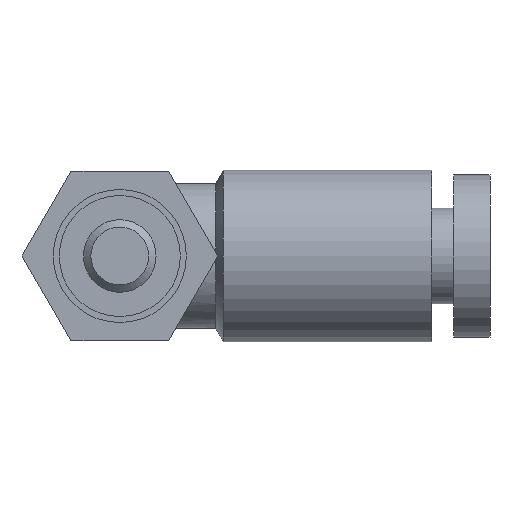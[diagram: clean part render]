
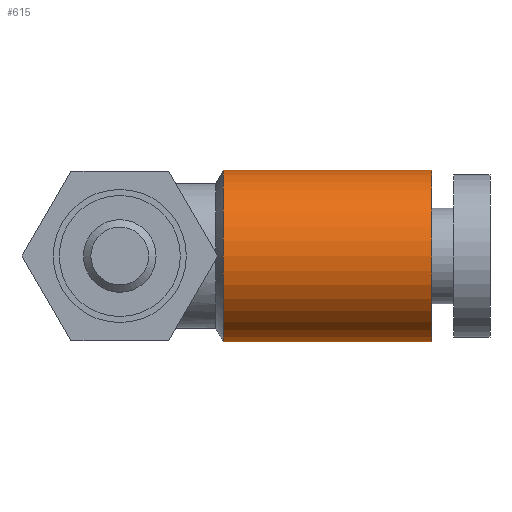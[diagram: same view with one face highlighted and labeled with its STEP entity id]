
A CAD part, front view. The second image highlights one B-rep face of the part: STEP entity #615.
In plain terms, the highlighted cylindrical face has radius 3.55 mm (diameter 7.1 mm), a full revolution.
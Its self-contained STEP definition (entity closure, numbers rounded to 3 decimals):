
#69=CIRCLE('',#656,3.55);
#86=CIRCLE('',#698,3.55);
#210=ORIENTED_EDGE('',*,*,#317,.F.);
#211=ORIENTED_EDGE('',*,*,#272,.T.);
#272=EDGE_CURVE('',#347,#347,#69,.T.);
#317=EDGE_CURVE('',#377,#377,#86,.T.);
#347=VERTEX_POINT('',#973);
#377=VERTEX_POINT('',#1082);
#495=EDGE_LOOP('',(#210));
#496=EDGE_LOOP('',(#211));
#554=FACE_BOUND('',#495,.T.);
#555=FACE_BOUND('',#496,.T.);
#581=CYLINDRICAL_SURFACE('',#697,3.55);
#615=ADVANCED_FACE('',(#554,#555),#581,.T.);
#656=AXIS2_PLACEMENT_3D('',#972,#754,#755);
#697=AXIS2_PLACEMENT_3D('',#1080,#861,#862);
#698=AXIS2_PLACEMENT_3D('',#1081,#863,#864);
#754=DIRECTION('',(1.,0.,0.));
#755=DIRECTION('',(0.,0.,-1.));
#861=DIRECTION('',(1.,0.,0.));
#862=DIRECTION('',(0.,0.,-1.));
#863=DIRECTION('',(1.,0.,0.));
#864=DIRECTION('',(0.,0.,-1.));
#972=CARTESIAN_POINT('',(4.286,11.25,0.));
#973=CARTESIAN_POINT('',(4.286,11.25,-3.55));
#1080=CARTESIAN_POINT('',(15.3,11.25,0.));
#1081=CARTESIAN_POINT('',(12.9,11.25,0.));
#1082=CARTESIAN_POINT('',(12.9,11.25,-3.55));
